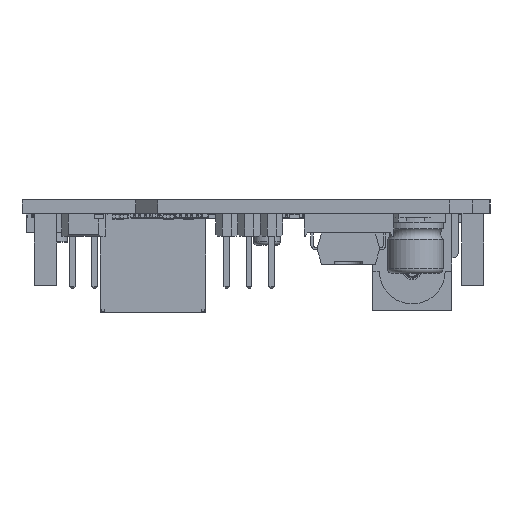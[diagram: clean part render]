
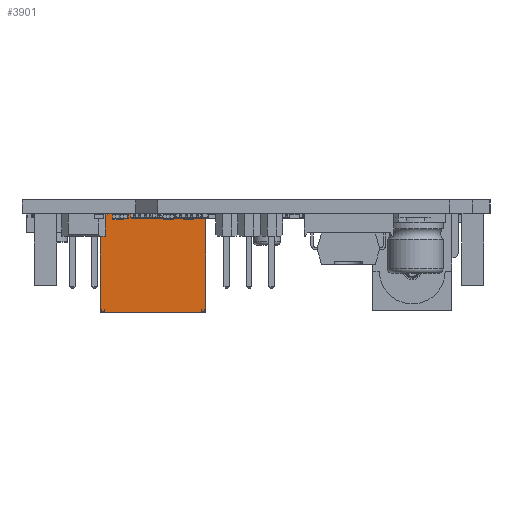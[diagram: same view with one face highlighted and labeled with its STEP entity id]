
A CAD part, left-side view. The second image highlights one B-rep face of the part: STEP entity #3901.
In plain terms, the highlighted planar face has unit normal (-1, 0, 0).
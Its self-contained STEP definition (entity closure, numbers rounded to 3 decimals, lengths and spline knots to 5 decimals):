
#90=ELLIPSE('',#49544,0.00424,0.003);
#91=ELLIPSE('',#49545,0.00424,0.003);
#3901=ADVANCED_FACE('',(#8534),#6333,.T.);
#6333=PLANE('',#49546);
#8534=FACE_OUTER_BOUND('',#10919,.T.);
#10919=EDGE_LOOP('',(#18414,#18415,#18416,#18417,#18418,#18419,#18420,#18421,
#18422,#18423));
#18414=ORIENTED_EDGE('',*,*,#33182,.T.);
#18415=ORIENTED_EDGE('',*,*,#33183,.T.);
#18416=ORIENTED_EDGE('',*,*,#33184,.T.);
#18417=ORIENTED_EDGE('',*,*,#33185,.T.);
#18418=ORIENTED_EDGE('',*,*,#33150,.T.);
#18419=ORIENTED_EDGE('',*,*,#33186,.T.);
#18420=ORIENTED_EDGE('',*,*,#33187,.T.);
#18421=ORIENTED_EDGE('',*,*,#33188,.T.);
#18422=ORIENTED_EDGE('',*,*,#33189,.F.);
#18423=ORIENTED_EDGE('',*,*,#33170,.T.);
#27869=VERTEX_POINT('',#69671);
#27870=VERTEX_POINT('',#69673);
#27889=VERTEX_POINT('',#69713);
#27890=VERTEX_POINT('',#69715);
#27900=VERTEX_POINT('',#69738);
#27901=VERTEX_POINT('',#69740);
#27902=VERTEX_POINT('',#69742);
#27903=VERTEX_POINT('',#69745);
#27904=VERTEX_POINT('',#69747);
#27905=VERTEX_POINT('',#69749);
#33150=EDGE_CURVE('',#27870,#27869,#39373,.T.);
#33170=EDGE_CURVE('',#27890,#27889,#39389,.T.);
#33182=EDGE_CURVE('',#27889,#27900,#39398,.T.);
#33183=EDGE_CURVE('',#27900,#27901,#90,.T.);
#33184=EDGE_CURVE('',#27901,#27902,#39399,.T.);
#33185=EDGE_CURVE('',#27902,#27870,#39400,.T.);
#33186=EDGE_CURVE('',#27869,#27903,#39401,.T.);
#33187=EDGE_CURVE('',#27903,#27904,#39402,.T.);
#33188=EDGE_CURVE('',#27904,#27905,#91,.T.);
#33189=EDGE_CURVE('',#27890,#27905,#39403,.T.);
#39373=LINE('',#69672,#44912);
#39389=LINE('',#69714,#44928);
#39398=LINE('',#69737,#44937);
#39399=LINE('',#69741,#44938);
#39400=LINE('',#69743,#44939);
#39401=LINE('',#69744,#44940);
#39402=LINE('',#69746,#44941);
#39403=LINE('',#69750,#44942);
#44912=VECTOR('',#56672,1.);
#44928=VECTOR('',#56700,1.);
#44937=VECTOR('',#56717,1.);
#44938=VECTOR('',#56720,1.);
#44939=VECTOR('',#56721,1.);
#44940=VECTOR('',#56722,1.);
#44941=VECTOR('',#56723,1.);
#44942=VECTOR('',#56726,1.);
#49544=AXIS2_PLACEMENT_3D('',#69739,#56718,#56719);
#49545=AXIS2_PLACEMENT_3D('',#69748,#56724,#56725);
#49546=AXIS2_PLACEMENT_3D('',#69751,#56727,#56728);
#56672=DIRECTION('',(0.,-1.,0.));
#56700=DIRECTION('',(0.,1.,0.));
#56717=DIRECTION('',(0.,0.,-1.));
#56718=DIRECTION('',(-1.,0.,0.));
#56719=DIRECTION('',(0.,0.,-1.));
#56720=DIRECTION('',(0.,-1.,0.));
#56721=DIRECTION('',(0.,0.,-1.));
#56722=DIRECTION('',(0.,0.,1.));
#56723=DIRECTION('',(0.,-1.,0.));
#56724=DIRECTION('',(-1.,0.,0.));
#56725=DIRECTION('',(0.,0.,1.));
#56726=DIRECTION('',(0.,0.,-1.));
#56727=DIRECTION('',(-1.,0.,0.));
#56728=DIRECTION('',(0.,0.,1.));
#69671=CARTESIAN_POINT('',(2.22536,1.01144,-0.44));
#69672=CARTESIAN_POINT('',(2.22536,1.22644,-0.44));
#69673=CARTESIAN_POINT('',(2.22536,1.44144,-0.44));
#69713=CARTESIAN_POINT('',(2.22536,1.46144,0.));
#69714=CARTESIAN_POINT('',(2.22536,1.22644,0.));
#69715=CARTESIAN_POINT('',(2.22536,0.99144,0.));
#69737=CARTESIAN_POINT('',(2.22536,1.46144,0.));
#69738=CARTESIAN_POINT('',(2.22536,1.46144,-0.43151));
#69739=CARTESIAN_POINT('',(2.22536,1.45844,-0.43151));
#69740=CARTESIAN_POINT('',(2.22536,1.45844,-0.43576));
#69741=CARTESIAN_POINT('',(2.22536,1.22644,-0.43576));
#69742=CARTESIAN_POINT('',(2.22536,1.44144,-0.43576));
#69743=CARTESIAN_POINT('',(2.22536,1.44144,0.));
#69744=CARTESIAN_POINT('',(2.22536,1.01144,0.));
#69745=CARTESIAN_POINT('',(2.22536,1.01144,-0.43576));
#69746=CARTESIAN_POINT('',(2.22536,1.22644,-0.43576));
#69747=CARTESIAN_POINT('',(2.22536,0.99444,-0.43576));
#69748=CARTESIAN_POINT('',(2.22536,0.99444,-0.43151));
#69749=CARTESIAN_POINT('',(2.22536,0.99144,-0.43151));
#69750=CARTESIAN_POINT('',(2.22536,0.99144,0.));
#69751=CARTESIAN_POINT('',(2.22536,1.22644,0.));
